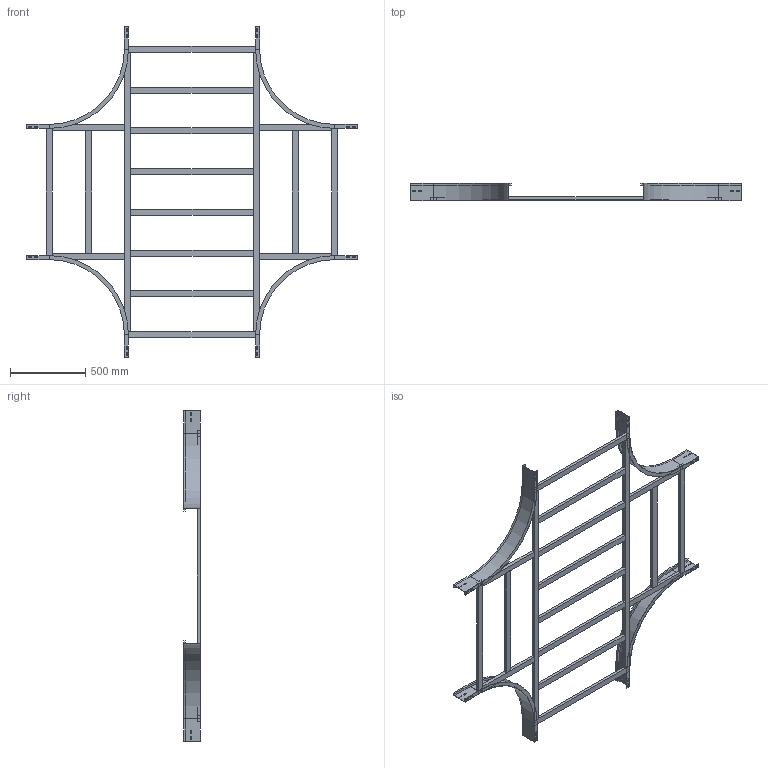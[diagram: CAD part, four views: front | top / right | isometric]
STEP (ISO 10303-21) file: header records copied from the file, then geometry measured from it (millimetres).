
FILE_DESCRIPTION (( 'STEP AP214' ), '1' );
FILE_NAME ('17B5J900.step', '2025-02-21T15:56:27', ( '' ), ( '' ), 'SwSTEP 2.0', 'SolidWorks 2023', '' );
FILE_SCHEMA (( 'AUTOMOTIVE_DESIGN' ));
Length unit declared in the file: millimetre
Products named in the file (7): TRAVERSINO_COPPIA_900; TRAVERSINO_INTERMEDIO_R500+900; 17B5J900; LONGH.INTERNO 90°_H112.5_R500; TRAVERSINO_VERT_R500; TRAVERSINO_900; TRAVERSINO_LONG._R500+900
Assembly tree (22 placements, depth 2):
  17B5J900
    LONGH.INTERNO 90°_H112.5_R500  x4
    TRAVERSINO_900  x4
    TRAVERSINO_LONG._R500+900  x2
    TRAVERSINO_INTERMEDIO_R500+900  x6
    TRAVERSINO_VERT_R500  x4
    TRAVERSINO_COPPIA_900  x2
Bounding box: 2200 x 112.5 x 2200 mm (x, y, z)
Volume: 14793200.5 mm3; surface area: 3292262.6 mm2
Topology: 22 solids, 22 shells, 340 faces, 824 edges, 528 vertices
Faces by surface type: plane 324, cylinder 16
Entity records: 2876 total; most frequent: CARTESIAN_POINT 461, DIRECTION 446, ORIENTED_EDGE 424, EDGE_CURVE 212, VECTOR 204, LINE 204, VERTEX_POINT 136, AXIS2_PLACEMENT_3D 121
